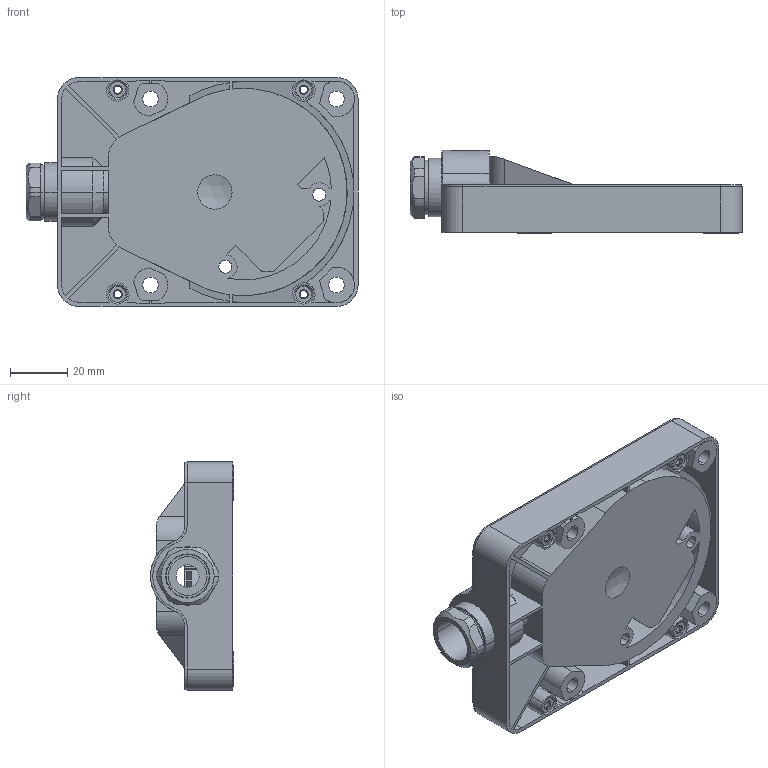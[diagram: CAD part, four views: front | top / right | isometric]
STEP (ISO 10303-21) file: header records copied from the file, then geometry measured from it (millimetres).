
FILE_DESCRIPTION(('STEP AP214'),'1');
FILE_NAME('C:/TPO v2/SharedFS/Outgoing/e10596.stp','2015-03-16T08:38:26',('TraceParts'),('TraceParts S.A.'),'XStep 1.0',' ',' ');
FILE_SCHEMA(('automotive_design'));
Length unit declared in the file: millimetre
Products named in the file (1): 1
Bounding box: 116 x 29 x 80 mm (x, y, z)
Volume: 56562.8 mm3; surface area: 51463.4 mm2
Topology: 1 solids, 1 shells, 447 faces, 1239 edges, 817 vertices
Faces by surface type: plane 242, cylinder 176, cone 22, torus 6, sphere 1
Entity records: 28372 total; most frequent: CARTESIAN_POINT 2550, DIRECTION 2546, STYLED_ITEM 2504, PRESENTATION_STYLE_ASSIGNMENT 2504, COLOUR_RGB 2504, ORIENTED_EDGE 2478, EDGE_CURVE 1239, CURVE_STYLE 1239
